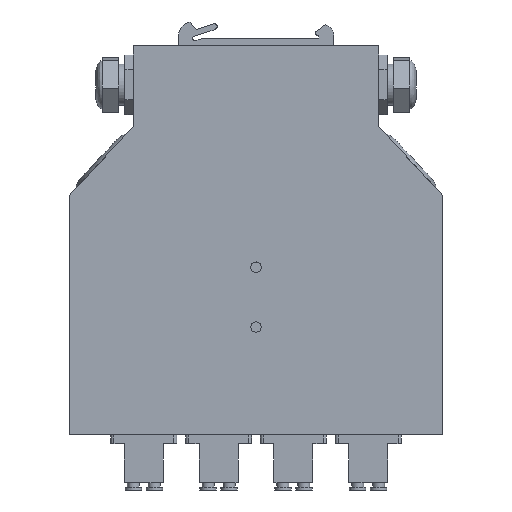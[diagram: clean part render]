
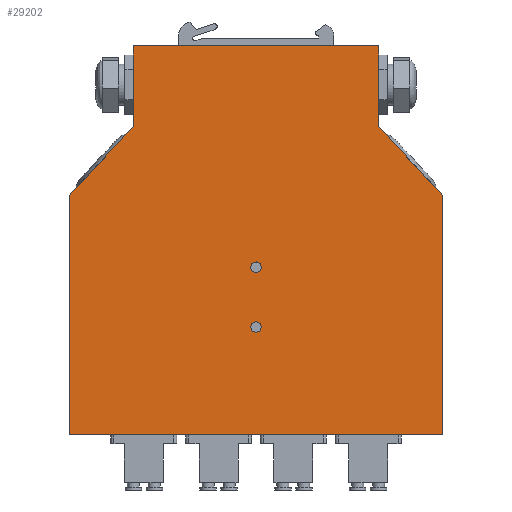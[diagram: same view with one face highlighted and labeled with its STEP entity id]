
A CAD part, front view. The second image highlights one B-rep face of the part: STEP entity #29202.
In plain terms, the highlighted planar face has unit normal (0, -1, 0).
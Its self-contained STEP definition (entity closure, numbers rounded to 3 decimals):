
#28918=CARTESIAN_POINT('',(41.,0.,130.));
#28919=VERTEX_POINT('',#28918);
#28920=CARTESIAN_POINT('',(41.,0.,103.));
#28921=VERTEX_POINT('',#28920);
#28922=CARTESIAN_POINT('',(41.,0.,130.));
#28923=DIRECTION('',(0.,0.,-1.));
#28924=VECTOR('',#28923,27.);
#28925=LINE('',#28922,#28924);
#28926=EDGE_CURVE('',#28919,#28921,#28925,.T.);
#28960=CARTESIAN_POINT('',(62.5,0.,80.));
#28961=VERTEX_POINT('',#28960);
#28962=CARTESIAN_POINT('',(41.,0.,103.));
#28963=DIRECTION('',(0.683,0.,-0.731));
#28964=VECTOR('',#28963,31.484);
#28965=LINE('',#28962,#28964);
#28966=EDGE_CURVE('',#28921,#28961,#28965,.T.);
#29006=CARTESIAN_POINT('',(62.5,0.,0.));
#29007=VERTEX_POINT('',#29006);
#29008=CARTESIAN_POINT('',(62.5,0.,80.));
#29009=DIRECTION('',(-0.,0.,-1.));
#29010=VECTOR('',#29009,80.);
#29011=LINE('',#29008,#29010);
#29012=EDGE_CURVE('',#28961,#29007,#29011,.T.);
#29030=CARTESIAN_POINT('',(-62.5,0.,0.));
#29031=VERTEX_POINT('',#29030);
#29032=CARTESIAN_POINT('',(62.5,0.,0.));
#29033=DIRECTION('',(-1.,0.,0.));
#29034=VECTOR('',#29033,125.);
#29035=LINE('',#29032,#29034);
#29036=EDGE_CURVE('',#29007,#29031,#29035,.T.);
#29060=CARTESIAN_POINT('',(-62.5,0.,80.));
#29061=VERTEX_POINT('',#29060);
#29062=CARTESIAN_POINT('',(-62.5,0.,0.));
#29063=DIRECTION('',(0.,0.,1.));
#29064=VECTOR('',#29063,80.);
#29065=LINE('',#29062,#29064);
#29066=EDGE_CURVE('',#29031,#29061,#29065,.T.);
#29087=CARTESIAN_POINT('',(-41.,0.,103.));
#29088=VERTEX_POINT('',#29087);
#29089=CARTESIAN_POINT('',(-62.5,0.,80.));
#29090=DIRECTION('',(0.683,0.,0.731));
#29091=VECTOR('',#29090,31.484);
#29092=LINE('',#29089,#29091);
#29093=EDGE_CURVE('',#29061,#29088,#29092,.T.);
#29111=CARTESIAN_POINT('',(-41.,0.,130.));
#29112=VERTEX_POINT('',#29111);
#29113=CARTESIAN_POINT('',(-41.,0.,103.));
#29114=DIRECTION('',(-0.,0.,1.));
#29115=VECTOR('',#29114,27.);
#29116=LINE('',#29113,#29115);
#29117=EDGE_CURVE('',#29088,#29112,#29116,.T.);
#29135=CARTESIAN_POINT('',(-41.,0.,130.));
#29136=DIRECTION('',(1.,0.,-0.));
#29137=VECTOR('',#29136,82.);
#29138=LINE('',#29135,#29137);
#29139=EDGE_CURVE('',#29112,#28919,#29138,.T.);
#29147=CARTESIAN_POINT('',(0.,0.,0.));
#29148=DIRECTION('',(0.,1.,0.));
#29149=DIRECTION('',(-1.,0.,0.));
#29150=AXIS2_PLACEMENT_3D('',#29147,#29148,#29149);
#29151=PLANE('',#29150);
#29152=CARTESIAN_POINT('',(0.,0.,34.25));
#29153=VERTEX_POINT('',#29152);
#29154=CARTESIAN_POINT('',(0.,0.,37.75));
#29155=VERTEX_POINT('',#29154);
#29156=CARTESIAN_POINT('',(0.,0.,36.));
#29157=DIRECTION('',(0.,-1.,0.));
#29158=DIRECTION('',(0.,0.,1.));
#29159=AXIS2_PLACEMENT_3D('',#29156,#29157,#29158);
#29160=CIRCLE('',#29159,1.75);
#29161=EDGE_CURVE('',#29153,#29155,#29160,.T.);
#29162=ORIENTED_EDGE('',*,*,#29161,.F.);
#29163=CARTESIAN_POINT('',(0.,0.,36.));
#29164=DIRECTION('',(0.,-1.,0.));
#29165=DIRECTION('',(0.,0.,1.));
#29166=AXIS2_PLACEMENT_3D('',#29163,#29164,#29165);
#29167=CIRCLE('',#29166,1.75);
#29168=EDGE_CURVE('',#29155,#29153,#29167,.T.);
#29169=ORIENTED_EDGE('',*,*,#29168,.F.);
#29170=EDGE_LOOP('',(#29162,#29169));
#29171=FACE_BOUND('',#29170,.T.);
#29172=CARTESIAN_POINT('',(0.,0.,54.25));
#29173=VERTEX_POINT('',#29172);
#29174=CARTESIAN_POINT('',(1.75,0.,56.));
#29175=VERTEX_POINT('',#29174);
#29176=CARTESIAN_POINT('',(0.,0.,56.));
#29177=DIRECTION('',(0.,-1.,0.));
#29178=DIRECTION('',(1.,0.,-0.));
#29179=AXIS2_PLACEMENT_3D('',#29176,#29177,#29178);
#29180=CIRCLE('',#29179,1.75);
#29181=EDGE_CURVE('',#29173,#29175,#29180,.T.);
#29182=ORIENTED_EDGE('',*,*,#29181,.F.);
#29183=CARTESIAN_POINT('',(0.,0.,56.));
#29184=DIRECTION('',(0.,-1.,0.));
#29185=DIRECTION('',(1.,0.,-0.));
#29186=AXIS2_PLACEMENT_3D('',#29183,#29184,#29185);
#29187=CIRCLE('',#29186,1.75);
#29188=EDGE_CURVE('',#29175,#29173,#29187,.T.);
#29189=ORIENTED_EDGE('',*,*,#29188,.F.);
#29190=EDGE_LOOP('',(#29182,#29189));
#29191=FACE_BOUND('',#29190,.T.);
#29192=ORIENTED_EDGE('',*,*,#28926,.F.);
#29193=ORIENTED_EDGE('',*,*,#29139,.F.);
#29194=ORIENTED_EDGE('',*,*,#29117,.F.);
#29195=ORIENTED_EDGE('',*,*,#29093,.F.);
#29196=ORIENTED_EDGE('',*,*,#29066,.F.);
#29197=ORIENTED_EDGE('',*,*,#29036,.F.);
#29198=ORIENTED_EDGE('',*,*,#29012,.F.);
#29199=ORIENTED_EDGE('',*,*,#28966,.F.);
#29200=EDGE_LOOP('',(#29192,#29193,#29194,#29195,#29196,#29197,#29198,#29199));
#29201=FACE_BOUND('',#29200,.T.);
#29202=ADVANCED_FACE('',(#29171,#29191,#29201),#29151,.F.);
